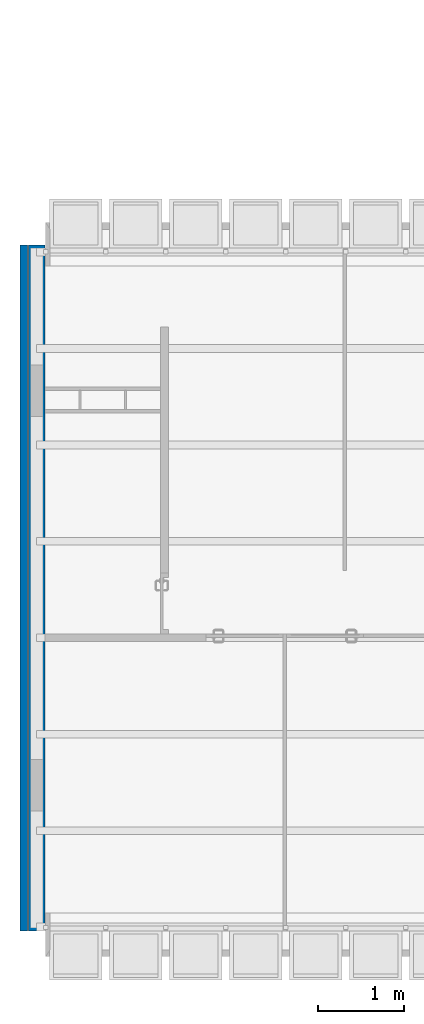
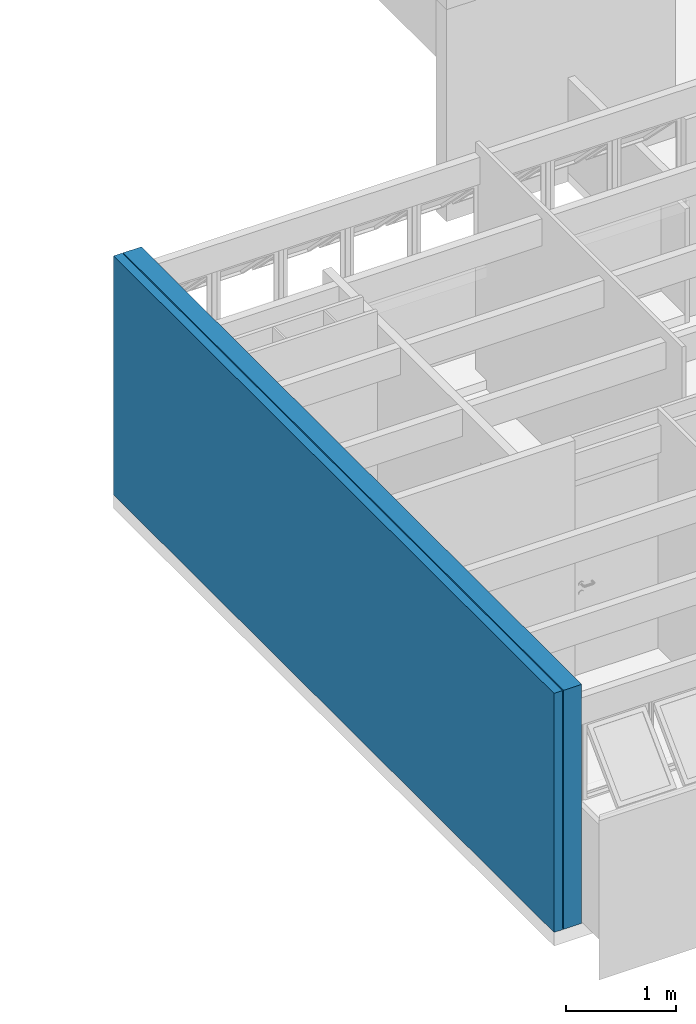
# One storey, part 6 of 37: 2 walls.
"""IFC2X3 building model written with IfcOpenShell, lengths in millimetres."""

from ifc_helpers import new_model, entity, si_unit, converted_unit, derived_unit, money_unit, direction, frame, origin_with_axes, place, context, subcontext, project, spatial, polyline, outline, extrude, material, layer, layer_set, layer_usage, type_object, element, save


model = new_model("IFC2X3")

# Units and contexts
model_context = context("Model", 3, precision=0.01, world=origin_with_axes(), true_north=direction((0.0, 1.0)))
body_context = subcontext(model_context, "Body", "Model", "MODEL_VIEW")
ifc_project = project(units=[si_unit("LENGTHUNIT", "METRE", prefix="MILLI"), si_unit("AREAUNIT", "SQUARE_METRE"), si_unit("VOLUMEUNIT", "CUBIC_METRE"), converted_unit("PLANEANGLEUNIT", "DEGREE", entity("IfcPlaneAngleMeasure", 0.0174532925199), si_unit("PLANEANGLEUNIT", "RADIAN"), dimensions=[0, 0, 0, 0, 0, 0, 0]), money_unit("USD"), converted_unit("TIMEUNIT", "Year", entity("IfcTimeMeasure", 31556926.0), si_unit("TIMEUNIT", "SECOND"), dimensions=[0, 0, 1, 0, 0, 0, 0]), si_unit("MASSUNIT", "GRAM", prefix="KILO"), si_unit("THERMODYNAMICTEMPERATUREUNIT", "DEGREE_CELSIUS"), si_unit("LUMINOUSINTENSITYUNIT", "LUMEN"), si_unit("ENERGYUNIT", "JOULE", prefix="MEGA"), derived_unit("THERMALCONDUCTANCEUNIT", [(si_unit("POWERUNIT", "WATT"), 1), (si_unit("LENGTHUNIT", "METRE"), -1), (si_unit("THERMODYNAMICTEMPERATUREUNIT", "KELVIN"), -1)]), derived_unit("SPECIFICHEATCAPACITYUNIT", [(si_unit("ENERGYUNIT", "JOULE"), 1), (si_unit("MASSUNIT", "GRAM", prefix="KILO"), -1), (si_unit("THERMODYNAMICTEMPERATUREUNIT", "KELVIN"), -1)]), derived_unit("MASSDENSITYUNIT", [(si_unit("MASSUNIT", "GRAM", prefix="KILO"), 1), (si_unit("VOLUMEUNIT", "CUBIC_METRE"), -1)])], contexts=[model_context])

# Site, building, storey
site_placement = place(None, origin_with_axes())
site = spatial("IfcSite", under=ifc_project, at=site_placement, Name="Local", CompositionType="ELEMENT")
building_placement = place(site_placement, origin_with_axes())
building = spatial("IfcBuilding", under=site, at=building_placement, Name="Construção", CompositionType="ELEMENT")
storey_placement = place(building_placement, frame((0.0, 0.0, 5300.0), z_axis=(0.0, 0.0, 1.0), x_axis=(1.0, 0.0, 0.0)))
storey = spatial("IfcBuildingStorey", under=building, at=storey_placement, Name="Terceiro Pavimento", CompositionType="ELEMENT", Elevation=5300.0)

# Walls
ifc_material = material(Name="GENÉRICO - VEDAÇÃO EXTERNA")
ifc_layer_1 = layer(ifc_material, 190.0, ventilated="UNKNOWN")
ifc_layer_set_1 = layer_set([ifc_layer_1], Name="GENÉRICO - VEDAÇÃO EXTERNA 190")
ifc_layer_usage_1 = layer_usage(ifc_layer_set_1, "AXIS2", "NEGATIVE", 0.0)
wall_type_1 = type_object("IfcWallType", Name="GENÉRICO - VEDAÇÃO EXTERNA 190", PredefinedType="NOTDEFINED")
wall_1_placement = place(storey_placement, frame((290.0, 8300.0, 0.0), z_axis=(0.0, 0.0, 1.0), x_axis=(0.0, -1.0, 0.0)))
element("IfcWallStandardCase", 1, at=wall_1_placement, inside=storey, type_object=wall_type_1, material=ifc_layer_usage_1, Name="APTO9-PAREDE-013", context=body_context, shape_type="SweptSolid", body=[
    extrude(outline(polyline([(0.0, -190.0), (8000.0, -190.0), (8000.0, 0.0), (0.0, 0.0), (0.0, -190.0)])), origin_with_axes(), (0.0, 0.0, 1.0), 2650.0),
])
ifc_layer_2 = layer(ifc_material, 90.0, ventilated="UNKNOWN")
ifc_layer_set_2 = layer_set([ifc_layer_2], Name="GENÉRICO - VEDAÇÃO EXTERNA 90")
ifc_layer_usage_2 = layer_usage(ifc_layer_set_2, "AXIS2", "NEGATIVE", 0.0)
wall_type_2 = type_object("IfcWallType", Name="GENÉRICO - VEDAÇÃO EXTERNA 90", PredefinedType="NOTDEFINED")
wall_2_placement = place(storey_placement, frame((90.0, 8300.0, 0.0), z_axis=(0.0, 0.0, 1.0), x_axis=(0.0, -1.0, 0.0)))
element("IfcWallStandardCase", 2, at=wall_2_placement, inside=storey, type_object=wall_type_2, material=ifc_layer_usage_2, Name="APTO9-PAREDE-014", context=body_context, shape_type="SweptSolid", body=[
    extrude(outline(polyline([(0.0, -90.0), (8000.0, -90.0), (8000.0, 0.0), (0.0, 0.0), (0.0, -90.0)])), origin_with_axes(), (0.0, 0.0, 1.0), 2650.0),
])

save(model, "model.ifc")
